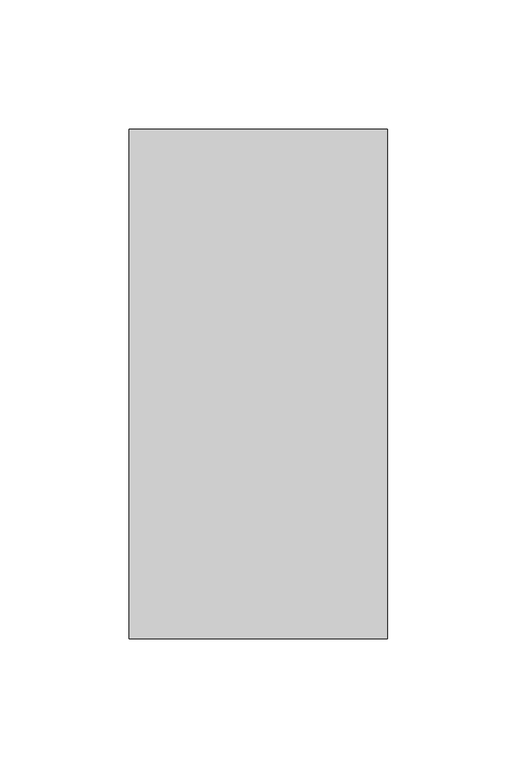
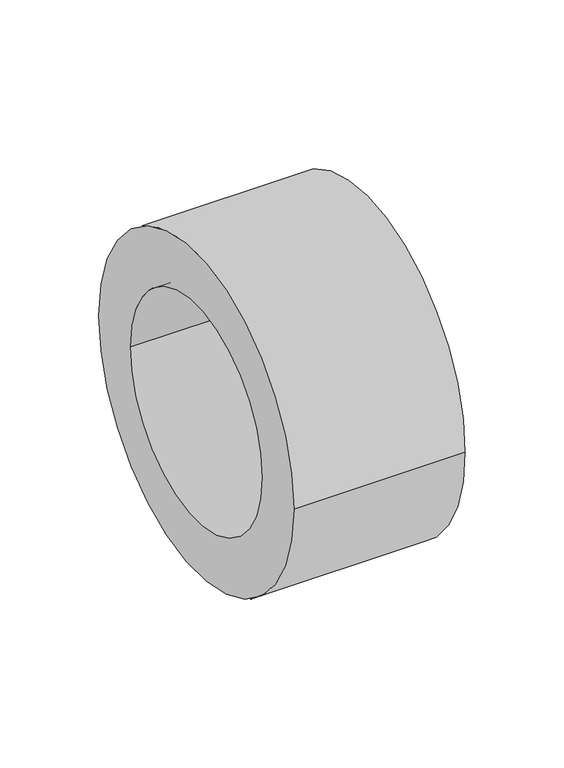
"""IFC4 building model written with IfcOpenShell, lengths in millimetres: pipe fitting geometry, СТ_Подвесы_ДляТруб_IsotermSM_D10-325_СимфонияТепла : Isoterm SM 32-133."""

import ifcopenshell
import ifcopenshell.guid

model = None  # the IFC model being written
_history = None  # IfcOwnerHistory: only IFC2X3 demands one
_inside = {}  # id of a spatial element -> (the spatial element, [elements in it])
_under = {}  # id of a project, library or spatial element -> (it, [spatial elements below it])
_declared = {}  # id of a project -> (the project, [libraries it declares])
_typed = {}  # id of a type object -> (the type object, [elements of that type])
_made_of = {}  # id of a material, layer set ... -> (it, [elements and type objects made of it])


def new_model(schema):
    """Start an empty IFC model of exactly this schema.

    Asked for "IFC4X3", IfcOpenShell would pick the latest addendum, in which some entities
    have other attributes; the version numbers below select the first issue.
    IFC2X3 requires an IfcOwnerHistory on every rooted entity: one is made here for all.
    """
    global model, _history
    if schema == "IFC4X3":
        model = ifcopenshell.file(schema_version=(4, 3, 0, 0))
    else:
        model = ifcopenshell.file(schema=schema)
    _inside.clear()
    _under.clear()
    _declared.clear()
    _typed.clear()
    _made_of.clear()
    _history = None
    if model.schema == "IFC2X3":
        org = make("IfcOrganization", Name="unknown")
        user = make(
            "IfcPersonAndOrganization",
            ThePerson=make("IfcPerson", FamilyName="unknown"),
            TheOrganization=org,
        )
        app = make(
            "IfcApplication",
            ApplicationDeveloper=org,
            Version="unknown",
            ApplicationFullName="unknown",
            ApplicationIdentifier="unknown",
        )
        _history = make(
            "IfcOwnerHistory",
            OwningUser=user,
            OwningApplication=app,
            ChangeAction="ADDED",
            CreationDate=0,
        )
    return model


def make(cls, **values):
    """One entity of the class cls with the attributes given. An attribute that is None is left unset."""
    return model.create_entity(
        cls, **{name: value for name, value in values.items() if value is not None}
    )


def rooted(cls, **values):
    """An entity with a GlobalId (a new one), such as an element, a storey or a relation."""
    return make(cls, GlobalId=ifcopenshell.guid.new(), OwnerHistory=_history, **values)


def si_unit(unit_type, name, prefix=None):
    """IfcSIUnit, for example si_unit("LENGTHUNIT", "METRE", prefix="MILLI")."""
    return make("IfcSIUnit", UnitType=unit_type, Prefix=prefix, Name=name)


def assignment(units):
    """IfcUnitAssignment: the units of a project."""
    return None if units is None else make("IfcUnitAssignment", Units=units)


def point(xyz):
    """IfcCartesianPoint."""
    return None if xyz is None else make("IfcCartesianPoint", Coordinates=xyz)


def direction(xyz):
    """IfcDirection."""
    return None if xyz is None else make("IfcDirection", DirectionRatios=xyz)


def frame(location, z_axis=None, x_axis=None):
    """IfcAxis2Placement3D, a coordinate frame: its origin and axes. An axis left out is left unset."""
    return make(
        "IfcAxis2Placement3D",
        Location=point(location),
        Axis=direction(z_axis),
        RefDirection=direction(x_axis),
    )


def frame_2d(location, x_axis=None):
    """IfcAxis2Placement2D, a coordinate frame in the plane: its origin and x axis."""
    return make(
        "IfcAxis2Placement2D", Location=point(location), RefDirection=direction(x_axis)
    )


def origin():
    """The frame at (0, 0, 0) with its axes left unset."""
    return frame((0.0, 0.0, 0.0))


def origin_2d():
    """The frame at (0, 0) in the plane with its x axis left unset."""
    return frame_2d((0.0, 0.0))


def place(relative_to, where):
    """IfcLocalPlacement: puts the frame where relative to a parent placement (None: the world)."""
    return make(
        "IfcLocalPlacement", PlacementRelTo=relative_to, RelativePlacement=where
    )


def context(
    kind, dimensions, precision=None, world=None, true_north=None, identifier=None
):
    """IfcGeometricRepresentationContext, for example the 3D "Model" context."""
    return make(
        "IfcGeometricRepresentationContext",
        ContextIdentifier=identifier,
        ContextType=kind,
        CoordinateSpaceDimension=dimensions,
        Precision=precision,
        WorldCoordinateSystem=world,
        TrueNorth=true_north,
    )


def project(units=None, contexts=None):
    """IfcProject with its units and contexts."""
    return rooted(
        "IfcProject",
        Name="project",
        RepresentationContexts=contexts,
        UnitsInContext=assignment(units),
    )


def spatial(cls, under=None, at=None, **own):
    """A site, building, storey or space (cls), placed at a placement, below another one or the project."""
    s = rooted(cls, ObjectPlacement=at, **own)
    if under is not None:
        _under.setdefault(under.id(), (under, []))[1].append(s)
    return s


def circle_curve(where, radius):
    """IfcCircle in the frame where."""
    return make("IfcCircle", Position=where, Radius=radius)


def trimmed(basis, trim1, trim2, sense, master):
    """IfcTrimmedCurve: the piece of a basis curve between two trims."""
    return make(
        "IfcTrimmedCurve",
        BasisCurve=basis,
        Trim1=trim1,
        Trim2=trim2,
        SenseAgreement=sense,
        MasterRepresentation=master,
    )


def segment(curve, same_sense, transition):
    """IfcCompositeCurveSegment."""
    return make(
        "IfcCompositeCurveSegment",
        Transition=transition,
        SameSense=same_sense,
        ParentCurve=curve,
    )


def composite_curve(segments, self_intersect=None):
    """IfcCompositeCurve: segments joined end to end."""
    return make("IfcCompositeCurve", Segments=segments, SelfIntersect=self_intersect)


def outline(outer, holes=None, kind="AREA"):
    """IfcArbitraryClosedProfileDef: a profile drawn as a closed curve; with holes, ...WithVoids."""
    if holes is None:
        return make("IfcArbitraryClosedProfileDef", ProfileType=kind, OuterCurve=outer)
    return make(
        "IfcArbitraryProfileDefWithVoids",
        ProfileType=kind,
        OuterCurve=outer,
        InnerCurves=holes,
    )


def extrude(swept, where, along, depth):
    """IfcExtrudedAreaSolid: the profile swept, set in the frame where, extruded along a direction by depth."""
    return make(
        "IfcExtrudedAreaSolid",
        SweptArea=swept,
        Position=where,
        ExtrudedDirection=direction(along),
        Depth=depth,
    )


def shape(context_of_items, identifier, shape_type, items):
    """IfcShapeRepresentation: the items that make up one representation, for example the "Body"."""
    return make(
        "IfcShapeRepresentation",
        ContextOfItems=context_of_items,
        RepresentationIdentifier=identifier,
        RepresentationType=shape_type,
        Items=items,
    )


def source(mapping_origin, context_of_items, identifier, shape_type, items):
    """IfcRepresentationMap: a shape defined once, which mapped items show again and again."""
    return make(
        "IfcRepresentationMap",
        MappingOrigin=mapping_origin,
        MappedRepresentation=shape(context_of_items, identifier, shape_type, items),
    )


def transform(
    local_origin,
    x_axis=None,
    y_axis=None,
    z_axis=None,
    scale=None,
    scale2=None,
    scale3=None,
    uniform=True,
):
    """IfcCartesianTransformationOperator3D, or its non-uniform kind. x_axis, y_axis, z_axis: its Axis1, 2, 3."""
    if uniform:
        return make(
            "IfcCartesianTransformationOperator3D",
            Axis1=direction(x_axis),
            Axis2=direction(y_axis),
            LocalOrigin=point(local_origin),
            Scale=scale,
            Axis3=direction(z_axis),
        )
    return make(
        "IfcCartesianTransformationOperator3DnonUniform",
        Axis1=direction(x_axis),
        Axis2=direction(y_axis),
        LocalOrigin=point(local_origin),
        Scale=scale,
        Axis3=direction(z_axis),
        Scale2=scale2,
        Scale3=scale3,
    )


def mapped(mapping_source, mapping_target):
    """IfcMappedItem: shows the shape of a source again, moved by a transform."""
    return make(
        "IfcMappedItem", MappingSource=mapping_source, MappingTarget=mapping_target
    )


def made_of(thing, what):
    """Note that an element or type object is made of a material, layer set ...; save() writes the relation."""
    if what is not None:
        _made_of.setdefault(what.id(), (what, []))[1].append(thing)
    return thing


def element(
    cls,
    number,
    at=None,
    inside=None,
    cuts=None,
    type_object=None,
    material=None,
    context=None,
    identifier="Body",
    shape_type=None,
    held_by="IfcProductDefinitionShape",
    body=None,
    shapes=None,
    **own,
):
    """One element of the class cls, such as IfcWall. Its Tag is "e" and its number.

    at: its placement. inside: the storey or other place that contains it. cuts: it is an
    opening in that element (IfcRelVoidsElement). A single representation is given by context,
    identifier, shape_type and body (its items); several are given by shapes. held_by: the class
    of the entity that holds the representations. save() writes the other relations.
    """
    e = rooted(cls, Tag="e%d" % number, ObjectPlacement=at, **own)
    if body is not None:
        shapes = [shape(context, identifier, shape_type, body)]
    if shapes is not None:
        e.Representation = make(held_by, Representations=shapes)
    if inside is not None:
        _inside.setdefault(inside.id(), (inside, []))[1].append(e)
    if cuts is not None:
        rooted(
            "IfcRelVoidsElement", RelatingBuildingElement=cuts, RelatedOpeningElement=e
        )
    if type_object is not None:
        _typed.setdefault(type_object.id(), (type_object, []))[1].append(e)
    return made_of(e, material)


def aggregate(whole, parts):
    """IfcRelAggregates: a whole, such as a stair, and the parts it consists of."""
    return rooted("IfcRelAggregates", RelatingObject=whole, RelatedObjects=parts)


def save(model, path):
    """Write the relations noted so far, then the file.

    IfcRelAggregates (storeys below a building ...), IfcRelContainedInSpatialStructure (elements
    in a storey), IfcRelDefinesByType, IfcRelAssociatesMaterial and IfcRelDeclares: one each for
    every whole, place, type object, material and project.
    """
    for whole, parts in _under.values():
        aggregate(whole, parts)
    for where, things in _inside.values():
        rooted(
            "IfcRelContainedInSpatialStructure",
            RelatedElements=things,
            RelatingStructure=where,
        )
    for kind, things in _typed.values():
        rooted("IfcRelDefinesByType", RelatedObjects=things, RelatingType=kind)
    for what, things in _made_of.values():
        rooted("IfcRelAssociatesMaterial", RelatedObjects=things, RelatingMaterial=what)
    for by, libraries in _declared.values():
        rooted("IfcRelDeclares", RelatingContext=by, RelatedDefinitions=libraries)
    model.write(path)


def pipe_fitting_85ec1d97(model_context):
    return source(origin(), model_context, "Body", "SweptSolid", [
        extrude(outline(composite_curve([segment(trimmed(circle_curve(origin_2d(), 98.5), [point((-98.5, 0.0))], [point((98.5, 0.0))], False, "CARTESIAN"), True, "CONTINUOUS"), segment(trimmed(circle_curve(origin_2d(), 98.5), [point((98.5, 0.0))], [point((-98.5, 0.0))], False, "CARTESIAN"), True, "CONTINUOUS")], self_intersect=False), holes=[composite_curve([segment(trimmed(circle_curve(origin_2d(), 66.5), [point((-66.5, 0.0))], [point((66.5, 0.0))], True, "CARTESIAN"), True, "CONTINUOUS"), segment(trimmed(circle_curve(origin_2d(), 66.5), [point((66.5, 0.0))], [point((-66.5, 0.0))], True, "CARTESIAN"), True, "CONTINUOUS")], self_intersect=False)]), frame((-50.0, 0.0, 0.0), z_axis=(1.0, 0.0, 0.0), x_axis=(0.0, 1.0, 0.0)), (0.0, 0.0, 1.0), 100.0),
    ])


if __name__ == "__main__":
    model = new_model("IFC4")
    model_context = context("Model", 3, world=origin())
    ifc_project = project(units=[si_unit("LENGTHUNIT", "METRE", prefix="MILLI")], contexts=[model_context])
    site = spatial("IfcSite", under=ifc_project)
    building = spatial("IfcBuilding", under=site)
    placement = place(None, origin())
    pipe_fitting_shape = pipe_fitting_85ec1d97(model_context)
    element("IfcPipeFitting", 1, ObjectType="СТ_Подвесы_ДляТруб_IsotermSM_D10-325_СимфонияТепла : Isoterm SM 32-133", at=placement, inside=building, context=model_context, shape_type="MappedRepresentation", body=[
        mapped(pipe_fitting_shape, transform((0.0, 0.0, 0.0), x_axis=(1.0, 0.0, 0.0), y_axis=(0.0, 1.0, 0.0), z_axis=(0.0, 0.0, 1.0))),
    ])
    save(model, "model.ifc")
